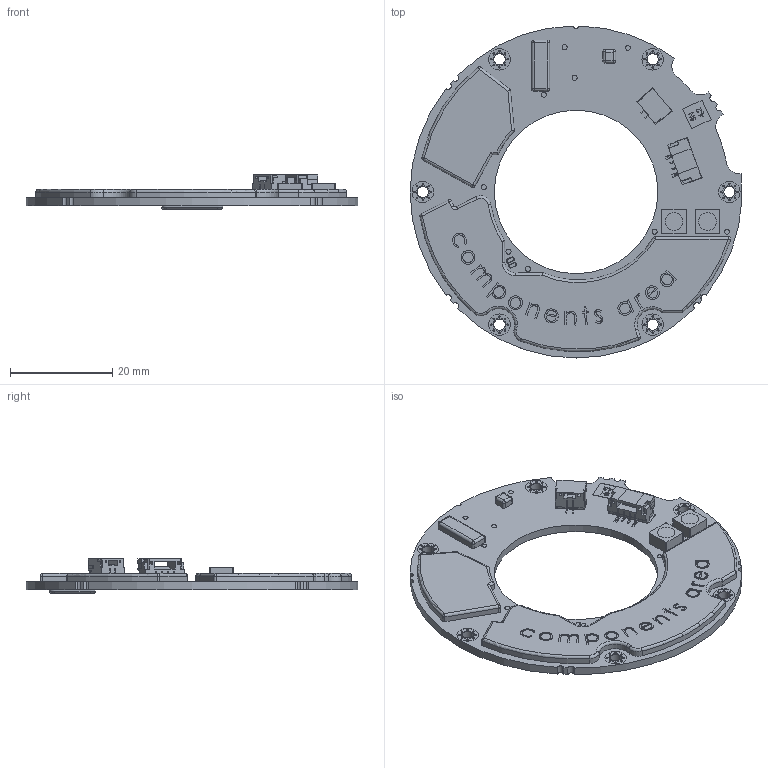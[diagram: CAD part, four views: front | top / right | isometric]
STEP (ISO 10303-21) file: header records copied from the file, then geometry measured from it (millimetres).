
FILE_DESCRIPTION (( 'STEP AP214' ), '1' );
FILE_NAME ('Readhead_AksIM_053.STEP', '2025-02-26T05:26:03', ( '' ), ( '' ), 'SwSTEP 2.0', 'SolidWorks 2022', '' );
FILE_SCHEMA (( 'AUTOMOTIVE_DESIGN' ));
Length unit declared in the file: millimetre
Products named in the file (1): Readhead_AksIM_053
Bounding box: 64.97 x 65 x 6.71 mm (x, y, z)
Volume: 6105.1 mm3; surface area: 8244.4 mm2
Topology: 59 solids, 59 shells, 3173 faces, 9084 edges, 6030 vertices
Faces by surface type: plane 2583, cylinder 418, bspline 153, torus 19
Entity records: 113018 total; most frequent: CARTESIAN_POINT 26976, ORIENTED_EDGE 18136, DIRECTION 15477, EDGE_CURVE 9068, VECTOR 7841, LINE 7841, VERTEX_POINT 6030, AXIS2_PLACEMENT_3D 3818
